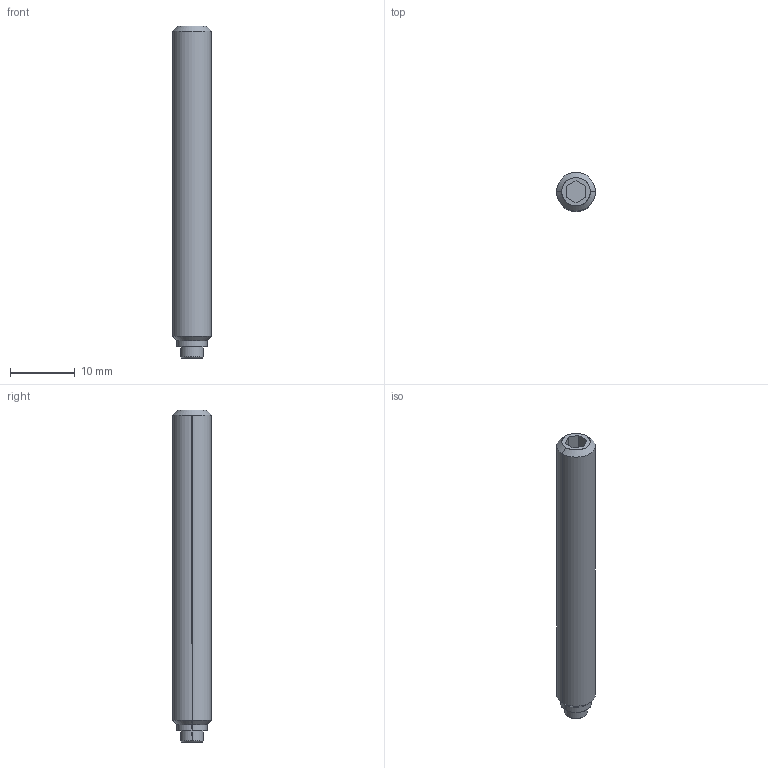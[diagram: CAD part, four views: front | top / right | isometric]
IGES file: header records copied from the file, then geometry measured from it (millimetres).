
Start section: SolidWorks IGES file using analytic representation for surfaces
Global section: file name: X:\11_SW2020-Inv2020\00_全2021-11新製品まで\h\HSSP06X51_3\hssp06x51_3.IGS; native system: SolidWorks 2020; preprocessor: SolidWorks 2020; author: ImaoCorp; date: 211026.102352; units: millimetre
Bounding box: 6 x 6 x 51.3 mm (x, y, z)
Surface area: 1023.7 mm2 (no closed solid volume)
Topology: 0 solids, 0 shells, 22 faces, 212 edges, 212 vertices
Faces by surface type: revolution 12, bspline 10
